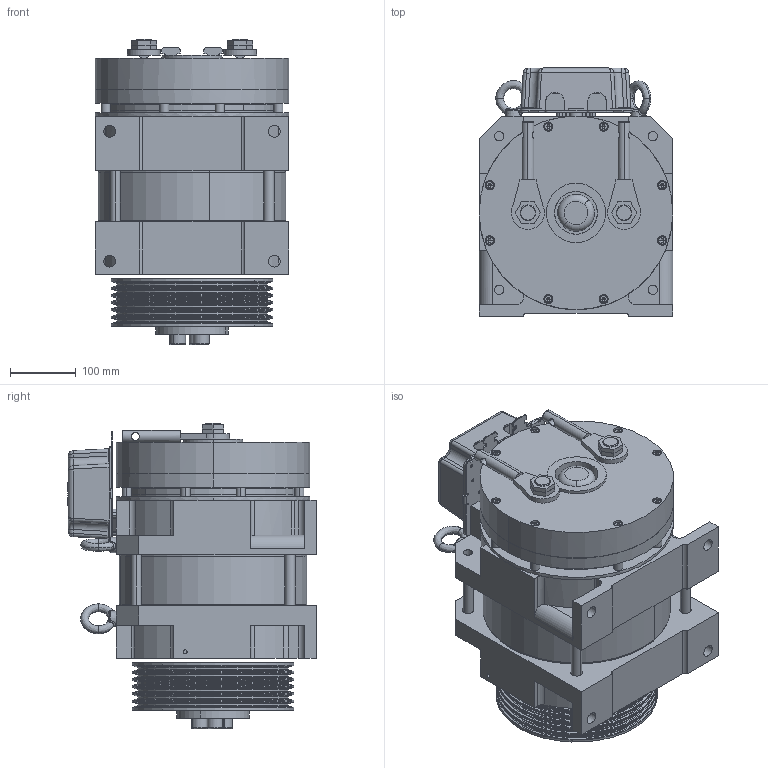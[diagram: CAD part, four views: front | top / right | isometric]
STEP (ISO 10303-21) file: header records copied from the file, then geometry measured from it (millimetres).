
FILE_DESCRIPTION (( 'STEP AP203' ), '1' );
FILE_NAME ('CSAG-E240-630-7²Û.STEP', '2023-10-13T10:43:38', ( '' ), ( '' ), 'SwSTEP 2.0', 'SolidWorks 2016', '' );
FILE_SCHEMA (( 'CONFIG_CONTROL_DESIGN' ));
Length unit declared in the file: millimetre
Products named in the file (18): 耀攜晤鎢ん; SAG-E600秶雄ん; 諉盄碟; 諉盄碟郪璃; 珝竘謫結啣2; 諉盄碟假蚾啣; CSAG-E240-630-7羞; hexagon socket head cap screws gb_GB_FASTENER_SCREWS_HSHCS M16X100-N; YYLDG; hexagon socket head cap screws gb_GB_FASTENER_SCREWS_HSHCS M16X30-N; 隅赽; 諉盄碟假蚾殤; 珝竘謫240x10x朴6.5x10; ZZPDG; 裂遠蹟隊-1; hexagon socket head cap screws gb_GB_FASTENER_SCREWS_HSHCS M8X80-N; 藻笠攫; 晤鎢ん迖殤
Assembly tree (30 placements, depth 3):
  CSAG-E240-630-7羞
    YYLDG
    ZZPDG
    珝竘謫240x10x朴6.5x10
    耀攜晤鎢ん
    隅赽
    藻笠攫
    SAG-E600秶雄ん
    晤鎢ん迖殤
    hexagon socket head cap screws gb_GB_FASTENER_SCREWS_HSHCS M16X100-N  x4
    hexagon socket head cap screws gb_GB_FASTENER_SCREWS_HSHCS M8X80-N  x8
    珝竘謫結啣2
    hexagon socket head cap screws gb_GB_FASTENER_SCREWS_HSHCS M16X30-N  x3
    裂遠蹟隊-1  x2
    諉盄碟郪璃
      諉盄碟假蚾殤
      諉盄碟假蚾啣
      諉盄碟
Bounding box: 294 x 378 x 464 mm (x, y, z)
Volume: 16933176.8 mm3; surface area: 2166881.2 mm2
Topology: 33 solids, 35 shells, 1668 faces, 4104 edges, 2558 vertices
Faces by surface type: plane 671, cylinder 652, torus 149, cone 138, bspline 58
Entity records: 48365 total; most frequent: CARTESIAN_POINT 13141, DIRECTION 7246, ORIENTED_EDGE 6686, EDGE_CURVE 3343, AXIS2_PLACEMENT_3D 2837, VERTEX_POINT 2128, EDGE_LOOP 1625, VECTOR 1572
